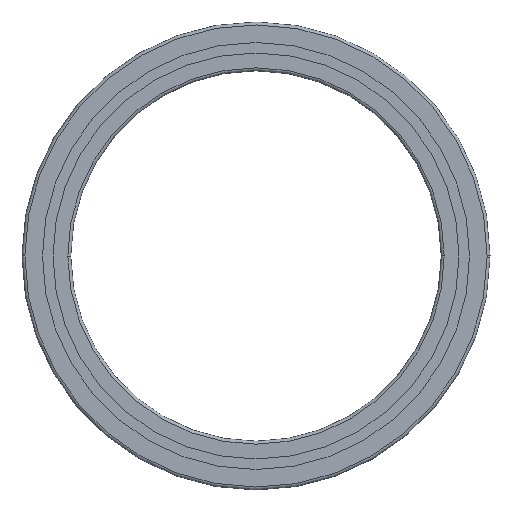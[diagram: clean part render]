
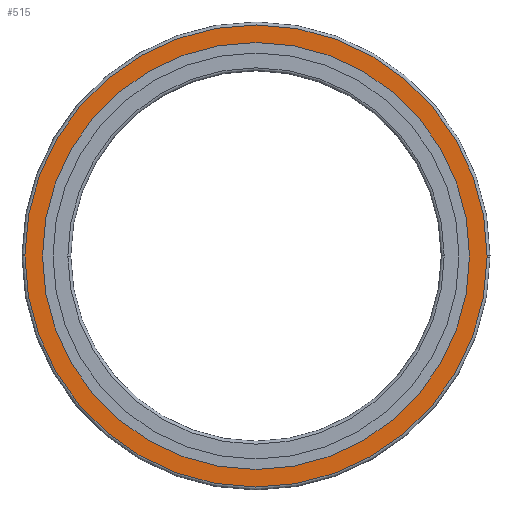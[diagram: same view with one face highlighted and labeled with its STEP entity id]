
A CAD part, front view. The second image highlights one B-rep face of the part: STEP entity #515.
In plain terms, the highlighted planar face has unit normal (0, -1, 0).
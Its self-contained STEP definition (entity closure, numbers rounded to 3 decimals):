
#327=VERTEX_POINT('',#867);
#333=VERTEX_POINT('',#873);
#375=EDGE_CURVE('',#581,#699,#920,.T.);
#383=EDGE_CURVE('',#423,#783,#928,.T.);
#391=EDGE_CURVE('',#699,#581,#936,.T.);
#423=VERTEX_POINT('',#973);
#433=EDGE_CURVE('',#333,#327,#985,.T.);
#493=EDGE_CURVE('',#783,#333,#1054,.T.);
#515=ADVANCED_FACE('',(#1078,#1079),#1080,.F.);
#581=VERTEX_POINT('',#1156);
#699=VERTEX_POINT('',#1287);
#757=EDGE_CURVE('',#327,#423,#1349,.T.);
#783=VERTEX_POINT('',#1379);
#867=CARTESIAN_POINT('',(118.498,0.0,-0.734));
#873=CARTESIAN_POINT('',(-118.5,0.0,0.));
#920=CIRCLE('',#1538,109.5);
#928=CIRCLE('',#1548,118.5);
#936=CIRCLE('',#1560,109.5);
#973=CARTESIAN_POINT('',(118.5,0.0,0.0));
#985=CIRCLE('',#1619,118.5);
#1054=CIRCLE('',#1703,118.5);
#1078=FACE_OUTER_BOUND('',#1734,.T.);
#1079=FACE_BOUND('',#1735,.T.);
#1080=PLANE('',#1736);
#1156=CARTESIAN_POINT('',(-109.5,0.0,0.0));
#1287=CARTESIAN_POINT('',(109.5,0.0,0.));
#1349=CIRCLE('',#2066,118.5);
#1379=CARTESIAN_POINT('',(-118.498,0.0,0.734));
#1538=AXIS2_PLACEMENT_3D('',#2245,#2246,#2247);
#1548=AXIS2_PLACEMENT_3D('',#2251,#2252,#2253);
#1560=AXIS2_PLACEMENT_3D('',#2258,#2259,#2260);
#1619=AXIS2_PLACEMENT_3D('',#2345,#2346,#2347);
#1703=AXIS2_PLACEMENT_3D('',#2442,#2443,#2444);
#1734=EDGE_LOOP('',(#2478,#2479,#2480,#2481));
#1735=EDGE_LOOP('',(#2482,#2483));
#1736=AXIS2_PLACEMENT_3D('',#2484,#2485,#2486);
#2066=AXIS2_PLACEMENT_3D('',#2824,#2825,#2826);
#2245=CARTESIAN_POINT('',(0.0,0.0,0.0));
#2246=DIRECTION('',(0.0,-1.0,0.0));
#2247=DIRECTION('',(-1.0,0.0,0.0));
#2251=CARTESIAN_POINT('',(0.0,0.0,0.0));
#2252=DIRECTION('',(0.0,-1.0,0.0));
#2253=DIRECTION('',(1.0,0.0,0.0));
#2258=CARTESIAN_POINT('',(0.0,0.0,0.0));
#2259=DIRECTION('',(0.0,-1.0,0.0));
#2260=DIRECTION('',(1.0,0.0,0.0));
#2345=CARTESIAN_POINT('',(0.0,0.0,0.0));
#2346=DIRECTION('',(0.0,-1.0,0.0));
#2347=DIRECTION('',(-1.0,0.0,0.0));
#2442=CARTESIAN_POINT('',(0.0,0.0,0.0));
#2443=DIRECTION('',(0.0,-1.0,0.0));
#2444=DIRECTION('',(1.0,0.0,0.0));
#2478=ORIENTED_EDGE('',*,*,#433,.T.);
#2479=ORIENTED_EDGE('',*,*,#757,.T.);
#2480=ORIENTED_EDGE('',*,*,#383,.T.);
#2481=ORIENTED_EDGE('',*,*,#493,.T.);
#2482=ORIENTED_EDGE('',*,*,#375,.F.);
#2483=ORIENTED_EDGE('',*,*,#391,.F.);
#2484=CARTESIAN_POINT('',(0.0,0.0,0.0));
#2485=DIRECTION('',(0.0,1.0,0.0));
#2486=DIRECTION('',(1.0,0.0,-0.0));
#2824=CARTESIAN_POINT('',(0.0,0.0,0.0));
#2825=DIRECTION('',(0.0,-1.0,0.0));
#2826=DIRECTION('',(-1.0,0.0,0.0));
